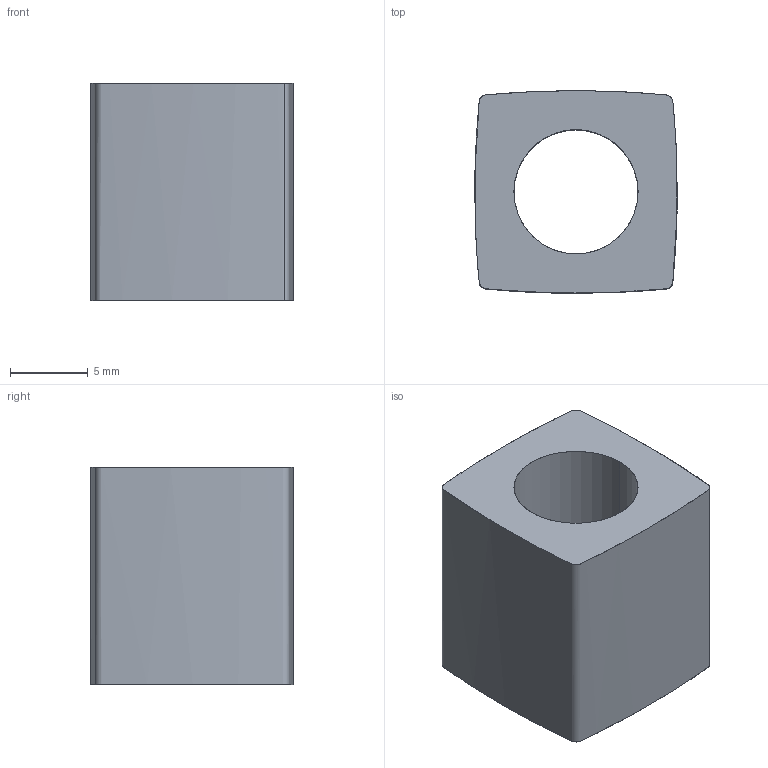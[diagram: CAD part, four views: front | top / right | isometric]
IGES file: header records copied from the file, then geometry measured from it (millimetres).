
Start section: SolidWorks IGES file using analytic representation for surfaces
Global section: file name: C:\Users\Kamkarian\Desktop\PowerFeed081414.IGS; native system: SolidWorks 2016; preprocessor: SolidWorks 2016; author: Kamkarian; date: 180617.024714; units: millimetre
Bounding box: 13.05 x 13.05 x 14 mm (x, y, z)
Surface area: 1269 mm2 (no closed solid volume)
Topology: 0 solids, 0 shells, 6 faces, 272 edges, 272 vertices
Faces by surface type: bspline 4, revolution 2
